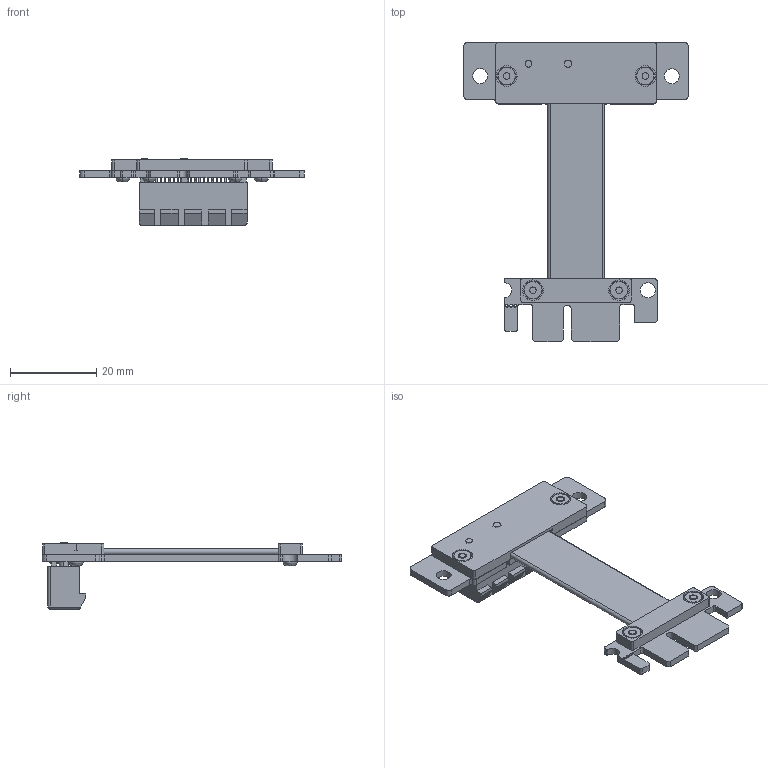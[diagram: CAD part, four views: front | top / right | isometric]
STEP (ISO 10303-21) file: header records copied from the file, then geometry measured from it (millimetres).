
FILE_DESCRIPTION(('Open CASCADE Model'),'2;1');
FILE_NAME('Open CASCADE Shape Model','2020-03-05T08:11:32',('Author'),( 'Open CASCADE'),'Open CASCADE STEP processor 6.8','Open CASCADE 6.8' ,'Unknown');
FILE_SCHEMA(('AUTOMOTIVE_DESIGN { 1 0 10303 214 1 1 1 1 }'));
Length unit declared in the file: millimetre
Products named in the file (14): PCB; Board; Open CASCADE STEP translator 6.8 6.1.1; Free-Models; Hexagon_nut_ISO_4032_(DIN_934)_-_M2_RGB9411503; RP11S-PAD; G0033_RGB9411503; Tape14x5_RGB0; TE_PCIe_Express_x1_(2.3mm_Pins)_RGB4404530; PCIe_Body_PCIe_x1; Pins_Internal_Pin_(Short); Pins_External_Pin_(Short); RP11R-PAD; cable20-43
Assembly tree (54 placements, depth 4):
  PCB
    Board
      Open CASCADE STEP translator 6.8 6.1.1
    Free-Models
      Hexagon_nut_ISO_4032_(DIN_934)_-_M2_RGB9411503  x4
      RP11S-PAD
      G0033_RGB9411503  x4
      Tape14x5_RGB0  x2
      TE_PCIe_Express_x1_(2.3mm_Pins)_RGB4404530
        PCIe_Body_PCIe_x1
        Pins_Internal_Pin_(Short)  x18
        Pins_External_Pin_(Short)  x18
      RP11R-PAD
      cable20-43
Bounding box: 52.18 x 69.47 x 15.4 mm (x, y, z)
Volume: 5096.9 mm3; surface area: 11917.1 mm2
Topology: 91 solids, 91 shells, 2237 faces, 6015 edges, 3945 vertices
Faces by surface type: plane 1235, cylinder 860, torus 80, cone 52, revolution 8, sphere 2
Full cylindrical faces by diameter (mm): 0.6 x43, 0.7 x36, 1.2 x4, 1.6 x35, 2 x4, 2.2 x8, 2.35 x2, 2.4 x2, 3.5 x3, 4.8 x4
Entity records: 41669 total; most frequent: CARTESIAN_POINT 6824, DIRECTION 6696, ORIENTED_EDGE 6458, EDGE_CURVE 3229, AXIS2_PLACEMENT_3D 2291, LINE 2112, VECTOR 2112, VERTEX_POINT 2101
